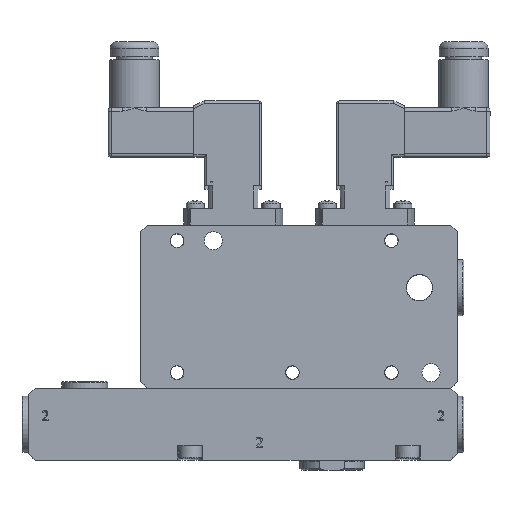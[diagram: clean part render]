
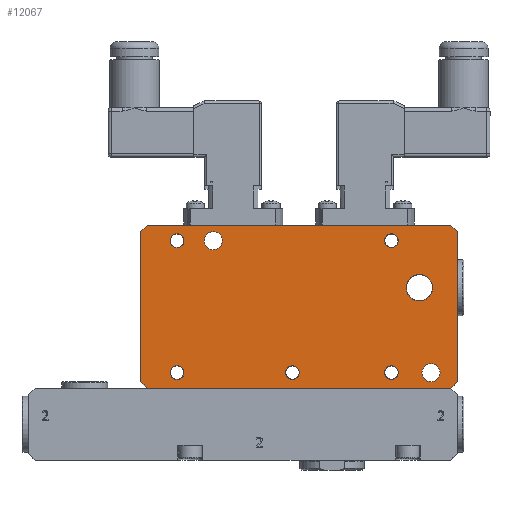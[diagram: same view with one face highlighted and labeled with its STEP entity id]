
A CAD part, top view. The second image highlights one B-rep face of the part: STEP entity #12067.
In plain terms, the highlighted planar face has unit normal (0, 0, 1).
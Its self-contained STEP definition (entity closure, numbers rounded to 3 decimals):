
#511=FACE_BOUND('',#2397,.T.);
#512=FACE_BOUND('',#2398,.T.);
#513=FACE_BOUND('',#2399,.T.);
#514=FACE_BOUND('',#2400,.T.);
#515=FACE_BOUND('',#2401,.T.);
#516=FACE_BOUND('',#2402,.T.);
#517=FACE_BOUND('',#2403,.T.);
#518=FACE_BOUND('',#2404,.T.);
#674=PLANE('',#13116);
#1689=FACE_OUTER_BOUND('',#2396,.T.);
#2396=EDGE_LOOP('',(#8748,#8749,#8750,#8751,#8752,#8753,#8754,#8755));
#2397=EDGE_LOOP('',(#8756));
#2398=EDGE_LOOP('',(#8757));
#2399=EDGE_LOOP('',(#8758));
#2400=EDGE_LOOP('',(#8759));
#2401=EDGE_LOOP('',(#8760));
#2402=EDGE_LOOP('',(#8761));
#2403=EDGE_LOOP('',(#8762));
#2404=EDGE_LOOP('',(#8763));
#3107=CIRCLE('',#13058,4.);
#3128=CIRCLE('',#13096,2.1);
#3129=CIRCLE('',#13098,2.1);
#3130=CIRCLE('',#13100,2.1);
#3131=CIRCLE('',#13102,2.1);
#3132=CIRCLE('',#13104,2.1);
#3133=CIRCLE('',#13106,2.75);
#3134=CIRCLE('',#13108,2.75);
#3478=LINE('',#17266,#4523);
#3578=LINE('',#17681,#4623);
#3581=LINE('',#17686,#4626);
#3583=LINE('',#17690,#4628);
#3585=LINE('',#17694,#4630);
#3587=LINE('',#17704,#4632);
#3588=LINE('',#17706,#4633);
#3589=LINE('',#17707,#4634);
#4523=VECTOR('',#14069,10.);
#4623=VECTOR('',#14369,10.);
#4626=VECTOR('',#14374,10.);
#4628=VECTOR('',#14378,10.);
#4630=VECTOR('',#14382,10.);
#4632=VECTOR('',#14392,10.);
#4633=VECTOR('',#14393,10.);
#4634=VECTOR('',#14394,10.);
#5587=VERTEX_POINT('',#17263);
#5588=VERTEX_POINT('',#17265);
#5672=VERTEX_POINT('',#17521);
#5703=VERTEX_POINT('',#17651);
#5704=VERTEX_POINT('',#17655);
#5705=VERTEX_POINT('',#17659);
#5706=VERTEX_POINT('',#17663);
#5707=VERTEX_POINT('',#17667);
#5708=VERTEX_POINT('',#17671);
#5709=VERTEX_POINT('',#17675);
#5710=VERTEX_POINT('',#17679);
#5711=VERTEX_POINT('',#17684);
#5712=VERTEX_POINT('',#17689);
#5713=VERTEX_POINT('',#17693);
#5717=VERTEX_POINT('',#17703);
#5718=VERTEX_POINT('',#17705);
#6725=EDGE_CURVE('',#5588,#5587,#3478,.T.);
#6827=EDGE_CURVE('',#5672,#5672,#3107,.T.);
#6874=EDGE_CURVE('',#5703,#5703,#3128,.T.);
#6876=EDGE_CURVE('',#5704,#5704,#3129,.T.);
#6878=EDGE_CURVE('',#5705,#5705,#3130,.T.);
#6880=EDGE_CURVE('',#5706,#5706,#3131,.T.);
#6882=EDGE_CURVE('',#5707,#5707,#3132,.T.);
#6884=EDGE_CURVE('',#5708,#5708,#3133,.T.);
#6886=EDGE_CURVE('',#5709,#5709,#3134,.T.);
#6889=EDGE_CURVE('',#5710,#5587,#3578,.T.);
#6892=EDGE_CURVE('',#5710,#5711,#3581,.T.);
#6894=EDGE_CURVE('',#5588,#5712,#3583,.T.);
#6896=EDGE_CURVE('',#5713,#5712,#3585,.T.);
#6901=EDGE_CURVE('',#5717,#5711,#3587,.T.);
#6902=EDGE_CURVE('',#5717,#5718,#3588,.T.);
#6903=EDGE_CURVE('',#5713,#5718,#3589,.T.);
#8748=ORIENTED_EDGE('',*,*,#6889,.F.);
#8749=ORIENTED_EDGE('',*,*,#6892,.T.);
#8750=ORIENTED_EDGE('',*,*,#6901,.F.);
#8751=ORIENTED_EDGE('',*,*,#6902,.T.);
#8752=ORIENTED_EDGE('',*,*,#6903,.F.);
#8753=ORIENTED_EDGE('',*,*,#6896,.T.);
#8754=ORIENTED_EDGE('',*,*,#6894,.F.);
#8755=ORIENTED_EDGE('',*,*,#6725,.T.);
#8756=ORIENTED_EDGE('',*,*,#6874,.T.);
#8757=ORIENTED_EDGE('',*,*,#6876,.T.);
#8758=ORIENTED_EDGE('',*,*,#6878,.T.);
#8759=ORIENTED_EDGE('',*,*,#6880,.T.);
#8760=ORIENTED_EDGE('',*,*,#6882,.T.);
#8761=ORIENTED_EDGE('',*,*,#6884,.T.);
#8762=ORIENTED_EDGE('',*,*,#6886,.T.);
#8763=ORIENTED_EDGE('',*,*,#6827,.T.);
#12067=ADVANCED_FACE('',(#1689,#511,#512,#513,#514,#515,#516,#517,#518),
#674,.T.);
#13058=AXIS2_PLACEMENT_3D('',#17522,#14234,#14235);
#13096=AXIS2_PLACEMENT_3D('',#17652,#14333,#14334);
#13098=AXIS2_PLACEMENT_3D('',#17656,#14338,#14339);
#13100=AXIS2_PLACEMENT_3D('',#17660,#14343,#14344);
#13102=AXIS2_PLACEMENT_3D('',#17664,#14348,#14349);
#13104=AXIS2_PLACEMENT_3D('',#17668,#14353,#14354);
#13106=AXIS2_PLACEMENT_3D('',#17672,#14358,#14359);
#13108=AXIS2_PLACEMENT_3D('',#17676,#14363,#14364);
#13116=AXIS2_PLACEMENT_3D('',#17702,#14390,#14391);
#14069=DIRECTION('',(1.,0.,0.));
#14234=DIRECTION('center_axis',(0.,0.,
-1.));
#14235=DIRECTION('ref_axis',(1.,0.,0.));
#14333=DIRECTION('center_axis',(0.,0.,
-1.));
#14334=DIRECTION('ref_axis',(1.,0.,0.));
#14338=DIRECTION('center_axis',(0.,0.,
-1.));
#14339=DIRECTION('ref_axis',(1.,0.,0.));
#14343=DIRECTION('center_axis',(0.,0.,
-1.));
#14344=DIRECTION('ref_axis',(1.,0.,0.));
#14348=DIRECTION('center_axis',(0.,0.,
-1.));
#14349=DIRECTION('ref_axis',(1.,0.,0.));
#14353=DIRECTION('center_axis',(0.,0.,
-1.));
#14354=DIRECTION('ref_axis',(1.,0.,0.));
#14358=DIRECTION('center_axis',(0.,0.,
-1.));
#14359=DIRECTION('ref_axis',(1.,0.,0.));
#14363=DIRECTION('center_axis',(0.,0.,
-1.));
#14364=DIRECTION('ref_axis',(1.,0.,0.));
#14369=DIRECTION('',(-0.707,-0.707,0.));
#14374=DIRECTION('',(0.,1.,0.));
#14378=DIRECTION('',(-0.707,0.707,0.));
#14382=DIRECTION('',(0.,-1.,0.));
#14390=DIRECTION('center_axis',(0.,0.,
1.));
#14391=DIRECTION('ref_axis',(1.,0.,0.));
#14392=DIRECTION('',(0.707,-0.707,0.));
#14393=DIRECTION('',(-1.,0.,0.));
#14394=DIRECTION('',(0.707,0.707,0.));
#17263=CARTESIAN_POINT('',(76.762,-2.451,9.589));
#17265=CARTESIAN_POINT('',(-15.238,-2.451,9.589));
#17266=CARTESIAN_POINT('',(78.762,-2.451,9.589));
#17521=CARTESIAN_POINT('',(63.262,28.049,9.589));
#17522=CARTESIAN_POINT('Origin',(67.262,28.049,9.589));
#17651=CARTESIAN_POINT('',(-8.338,2.299,9.589));
#17652=CARTESIAN_POINT('Origin',(-6.238,2.299,9.589));
#17655=CARTESIAN_POINT('',(56.662,42.299,9.589));
#17656=CARTESIAN_POINT('Origin',(58.762,42.299,9.589));
#17659=CARTESIAN_POINT('',(56.662,2.299,9.589));
#17660=CARTESIAN_POINT('Origin',(58.762,2.299,9.589));
#17663=CARTESIAN_POINT('',(-8.338,42.299,9.589));
#17664=CARTESIAN_POINT('Origin',(-6.238,42.299,9.589));
#17667=CARTESIAN_POINT('',(26.662,2.299,9.589));
#17668=CARTESIAN_POINT('Origin',(28.762,2.299,9.589));
#17671=CARTESIAN_POINT('',(68.012,2.299,9.589));
#17672=CARTESIAN_POINT('Origin',(70.762,2.299,9.589));
#17675=CARTESIAN_POINT('',(2.012,42.299,9.589));
#17676=CARTESIAN_POINT('Origin',(4.762,42.299,9.589));
#17679=CARTESIAN_POINT('',(78.762,-0.451,9.589));
#17681=CARTESIAN_POINT('',(71.949,-7.264,9.589));
#17684=CARTESIAN_POINT('',(78.762,45.049,9.589));
#17686=CARTESIAN_POINT('',(78.762,47.049,9.589));
#17689=CARTESIAN_POINT('',(-17.238,-0.451,9.589));
#17690=CARTESIAN_POINT('',(-10.426,-7.264,9.589));
#17693=CARTESIAN_POINT('',(-17.238,45.049,9.589));
#17694=CARTESIAN_POINT('',(-17.238,-2.451,9.589));
#17702=CARTESIAN_POINT('Origin',(30.762,22.299,9.589));
#17703=CARTESIAN_POINT('',(76.762,47.049,9.589));
#17704=CARTESIAN_POINT('',(71.949,51.861,9.589));
#17705=CARTESIAN_POINT('',(-15.238,47.049,9.589));
#17706=CARTESIAN_POINT('',(-17.238,47.049,9.589));
#17707=CARTESIAN_POINT('',(-10.426,51.861,9.589));
